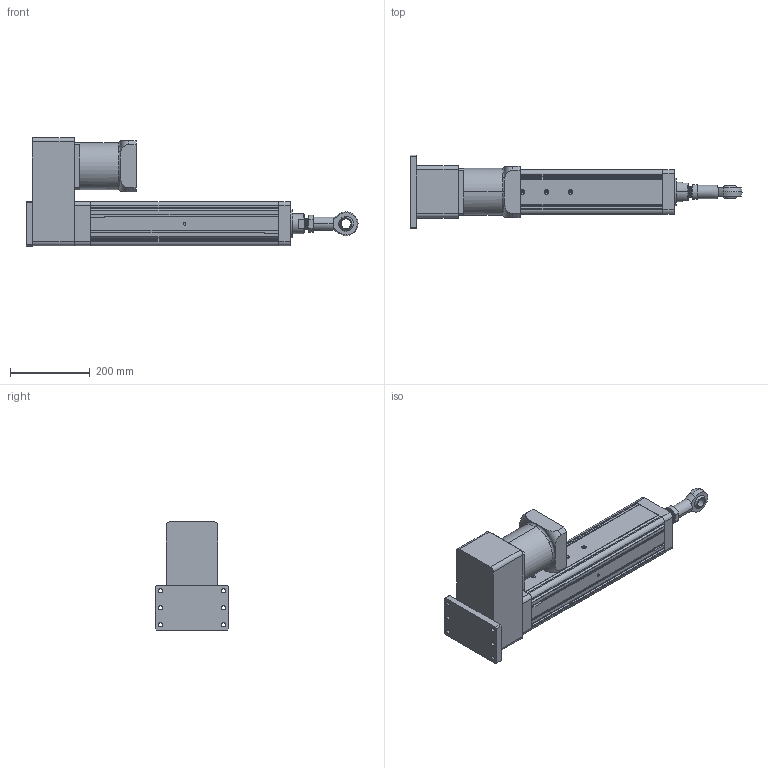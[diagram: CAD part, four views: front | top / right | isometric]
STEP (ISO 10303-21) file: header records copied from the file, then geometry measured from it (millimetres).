
FILE_DESCRIPTION (( 'STEP AP203' ), '1' );
FILE_NAME ('YRJ110-L300-H4K3.STEP', '2020-01-06T01:47:19', ( 'User' ), ( 'China' ), 'SwSTEP 2.0', 'SolidWorks 2016', '' );
FILE_SCHEMA (( 'CONFIG_CONTROL_DESIGN' ));
Length unit declared in the file: millimetre
Products named in the file (12): H4-110; 120遺1500W珨撰熬厒儂; K1-110; _BNC01-SI25T_K-R-001; _BNC01-SI25T_K-R-002; 095-100俴最倰第; BNC01-SI25T_K-R; H5-110-1; K3-110; YRJ110-L300-H4K3; 萇儂碟-110; H3-110-2
Assembly tree (11 placements, depth 4):
  YRJ110-L300-H4K3
    095-100俴最倰第
    H5-110-1
    萇儂碟-110
    H3-110-2
    H4-110
    120遺1500W珨撰熬厒儂
    K3-110
      K1-110
      BNC01-SI25T_K-R
        _BNC01-SI25T_K-R-001
        _BNC01-SI25T_K-R-002
Bounding box: 831 x 185 x 271 mm (x, y, z)
Volume: 8772042.1 mm3; surface area: 864426.4 mm2
Topology: 9 solids, 9 shells, 410 faces, 1116 edges, 713 vertices
Faces by surface type: cylinder 178, plane 173, cone 36, bspline 18, torus 5
Entity records: 23256 total; most frequent: CARTESIAN_POINT 11868, ORIENTED_EDGE 2176, DIRECTION 2052, EDGE_CURVE 1088, AXIS2_PLACEMENT_3D 721, VERTEX_POINT 713, VECTOR 610, LINE 610
